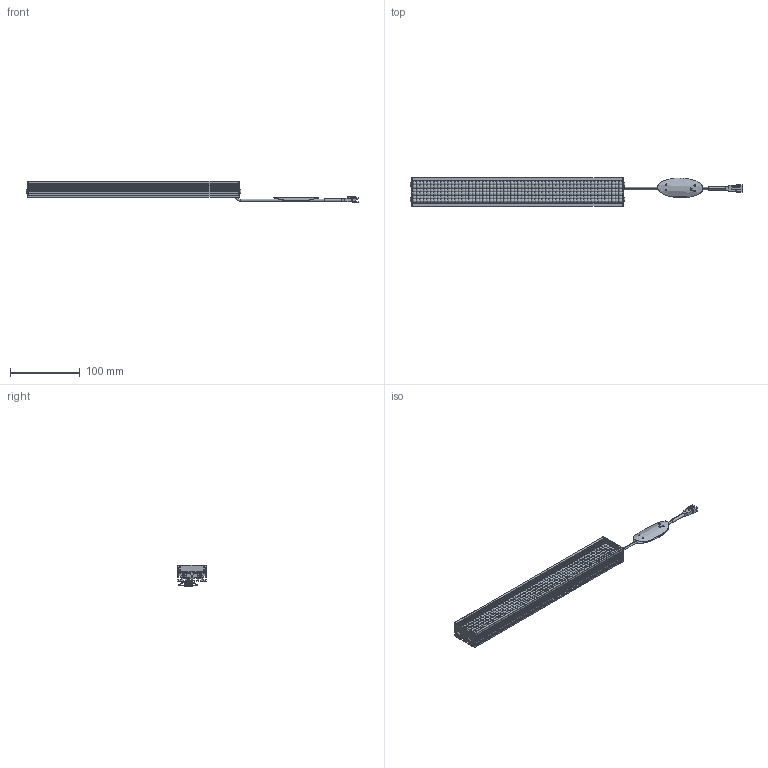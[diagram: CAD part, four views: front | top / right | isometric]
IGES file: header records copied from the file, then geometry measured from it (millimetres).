
Start section: 3D InterOp IGES (v. 2019 1.0.2), Spatial Corp. Copyright (c) 1999-2017.
Global section: file name: VBA-30030_DRAWING_3D.iges; native system: Spatial Corp.; preprocessor: 3D InterOp ACIS/IGES; author: Noname; organization: Noname; date: 20230914.101233; units: millimetre
Bounding box: 476 x 41 x 30.5 mm (x, y, z)
Surface area: 126919.4 mm2 (no closed solid volume)
Topology: 0 solids, 0 shells, 2136 faces, 12514 edges, 12514 vertices
Faces by surface type: revolution 1154, extrusion 976, bspline 6
